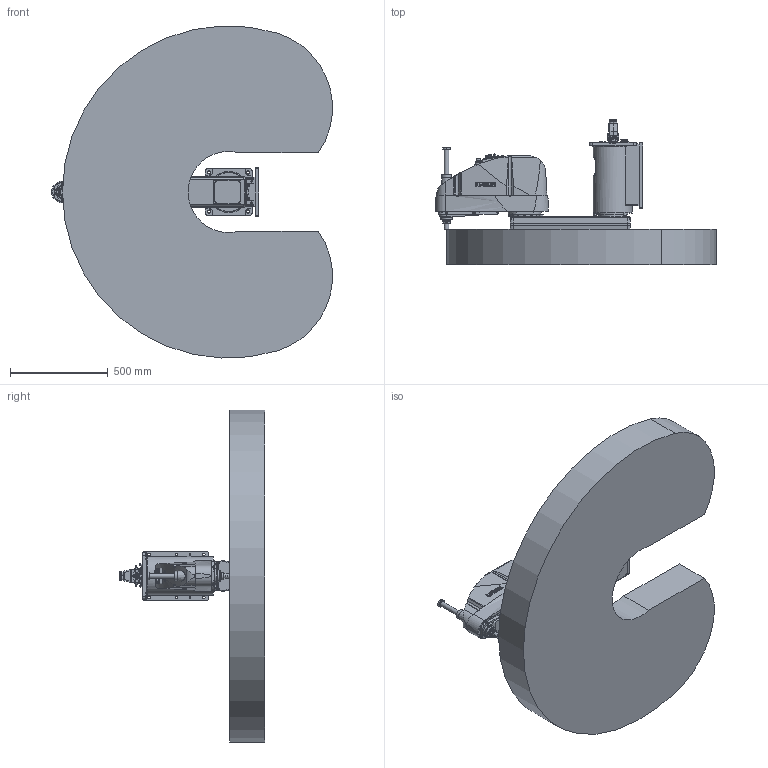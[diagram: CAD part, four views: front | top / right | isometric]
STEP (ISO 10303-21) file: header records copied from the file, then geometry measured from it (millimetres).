
FILE_DESCRIPTION( ( 'STEP AP214' ), '1' );
FILE_NAME( 'C:/Users/9607552/Desktop/GX10-B851SW_straight.stp', '2023-08-01T09:22:50', ( '' ), ( '' ), ' ', 'PARTsolutions', ' ' );
FILE_SCHEMA( ( 'AUTOMOTIVE_DESIGN { 1 0 10303 214 1 1 1 1 }' ) );
Length unit declared in the file: millimetre
Products named in the file (7): GX10-B851SWS-W; _Base sw; _Straight-B; _J1 Arm GX10-450 r/w; _J2 Arm GX10-s; _J3 Arm GX10-s (1); _GX10_20B-28_1
Assembly tree (6 placements, depth 2):
  GX10-B851SWS-W
    _Base sw
    _Straight-B
    _J1 Arm GX10-450 r/w
    _J2 Arm GX10-s
    _J3 Arm GX10-s (1)
    _GX10_20B-28_1
Bounding box: 1435.96 x 745.35 x 1698.44 mm (x, y, z)
Volume: 341632430.7 mm3; surface area: 5973182.5 mm2
Topology: 6 solids, 6 shells, 2555 faces, 6274 edges, 4096 vertices
Faces by surface type: plane 1323, cylinder 800, cone 334, torus 65, bspline 32, sphere 1
Full cylindrical faces by diameter (mm): 1 x24, 1.18 x55, 2.5 x2, 3 x32, 3.242 x10, 3.3 x4, 4.2 x4, 4.8 x4, 5.1 x4, 5.25 x2, 5.34 x8, 5.4 x5, 5.5 x16, 6 x2, 6.2 x4, 6.647 x2, 6.8 x2, 7 x23, 7.59 x8, 8 x9, 8.5 x2, 9 x4, 10 x32, 11 x14, 12 x6, 12.25 x1, 13 x8, 14 x20, 14.25 x1, 16 x6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
Entity records: 96769 total; most frequent: CARTESIAN_POINT 18289, DIRECTION 11976, ORIENTED_EDGE 11132, EDGE_CURVE 5566, AXIS2_PLACEMENT_3D 4608, VERTEX_POINT 4003, EDGE_LOOP 3589, FACE_OUTER_BOUND 2949
